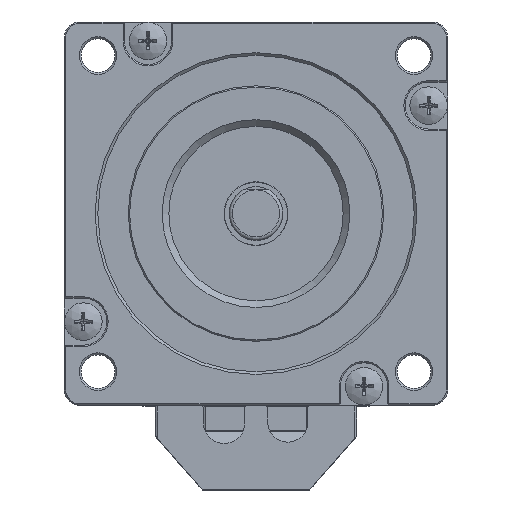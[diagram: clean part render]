
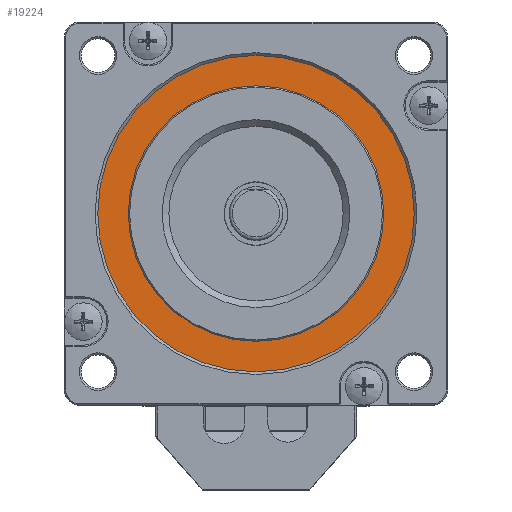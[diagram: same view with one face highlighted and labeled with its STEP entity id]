
A CAD part, top view. The second image highlights one B-rep face of the part: STEP entity #19224.
In plain terms, the highlighted planar face has unit normal (0, 0, 1).
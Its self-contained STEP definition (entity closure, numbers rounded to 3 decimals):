
#1476 = AXIS2_PLACEMENT_3D ( 'NONE', #13193, #4762, #8211 ) ;
#1659 = CARTESIAN_POINT ( 'NONE',  ( 23.6, 0., 10.6 ) ) ;
#2083 = EDGE_CURVE ( 'NONE', #12449, #12449, #18908, .T. ) ;
#2167 = PLANE ( 'NONE',  #7806 ) ;
#2632 = EDGE_LOOP ( 'NONE', ( #21049 ) ) ;
#2715 = VERTEX_POINT ( 'NONE', #13278 ) ;
#3572 = FACE_OUTER_BOUND ( 'NONE', #2632, .T. ) ;
#4290 = DIRECTION ( 'NONE',  ( 0., 0., 1. ) ) ;
#4301 = EDGE_LOOP ( 'NONE', ( #13049 ) ) ;
#4762 = DIRECTION ( 'NONE',  ( 0., 0., 1. ) ) ;
#7806 = AXIS2_PLACEMENT_3D ( 'NONE', #20976, #10848, #20898 ) ;
#7832 = AXIS2_PLACEMENT_3D ( 'NONE', #14354, #4290, #14494 ) ;
#8211 = DIRECTION ( 'NONE',  ( 1., 0., 0. ) ) ;
#10848 = DIRECTION ( 'NONE',  ( 0., 0., 1. ) ) ;
#10995 = FACE_BOUND ( 'NONE', #4301, .T. ) ;
#12449 = VERTEX_POINT ( 'NONE', #1659 ) ;
#13049 = ORIENTED_EDGE ( 'NONE', *, *, #20636, .F. ) ;
#13193 = CARTESIAN_POINT ( 'NONE',  ( 0., 0., 10.6 ) ) ;
#13278 = CARTESIAN_POINT ( 'NONE',  ( 19.05, 0., 10.6 ) ) ;
#14354 = CARTESIAN_POINT ( 'NONE',  ( 0., 0., 10.6 ) ) ;
#14494 = DIRECTION ( 'NONE',  ( 1., 0., 0. ) ) ;
#17017 = CIRCLE ( 'NONE', #1476, 19.05 ) ;
#18908 = CIRCLE ( 'NONE', #7832, 23.6 ) ;
#19224 = ADVANCED_FACE ( 'NONE', ( #10995, #3572 ), #2167, .T. ) ;
#20636 = EDGE_CURVE ( 'NONE', #2715, #2715, #17017, .T. ) ;
#20898 = DIRECTION ( 'NONE',  ( 1., 0., 0. ) ) ;
#20976 = CARTESIAN_POINT ( 'NONE',  ( 0., 0., 10.6 ) ) ;
#21049 = ORIENTED_EDGE ( 'NONE', *, *, #2083, .T. ) ;
